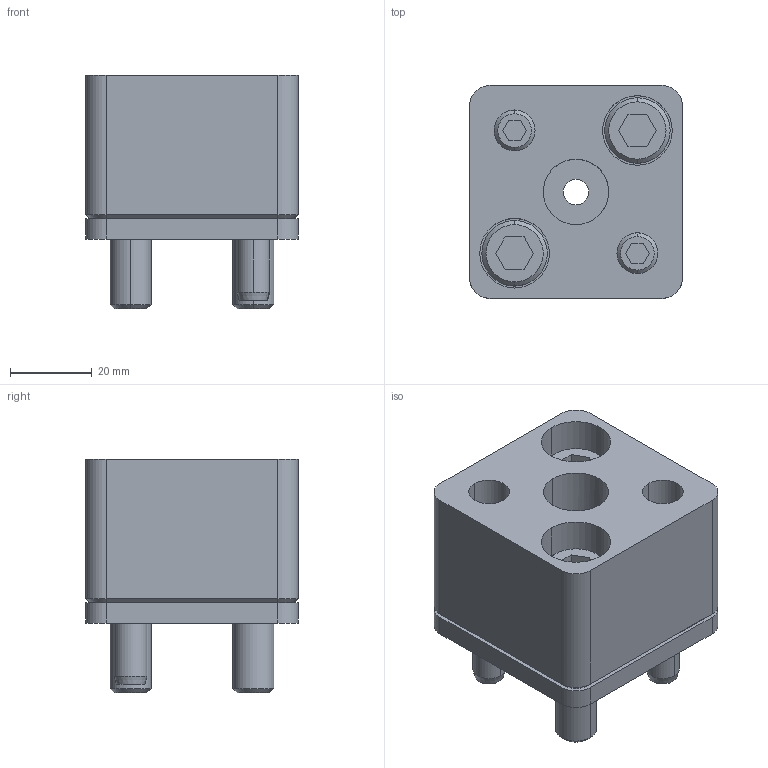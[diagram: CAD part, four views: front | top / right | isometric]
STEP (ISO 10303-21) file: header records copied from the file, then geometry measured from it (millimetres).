
FILE_DESCRIPTION(/* description */ (''),/* implementation_level */ '2;1');
FILE_NAME(/* name */ '3d_hsa-fp16_04188_r00.stp',/* time_stamp */ '2011-01-10T14:14:36+09:00',/* author */ ('MISUMI'),/* organization */ (''),/* preprocessor_version */ 'ST-DEVELOPER v11',/* originating_system */ 'UGS - NX 5.0',/* authorisation */ '');
FILE_SCHEMA (('CONFIG_CONTROL_DESIGN'));
Length unit declared in the file: millimetre
Products named in the file (1): 3d_hsa-fp16_04188_r00
Bounding box: 52 x 52 x 57 mm (x, y, z)
Volume: 94598.7 mm3; surface area: 32021.2 mm2
Topology: 8 solids, 8 shells, 167 faces, 380 edges, 243 vertices
Faces by surface type: plane 72, cylinder 65, cone 30
Entity records: 4856 total; most frequent: DIRECTION 866, CARTESIAN_POINT 850, ORIENTED_EDGE 760, EDGE_CURVE 380, AXIS2_PLACEMENT_3D 329, VERTEX_POINT 243, LINE 208, VECTOR 208
